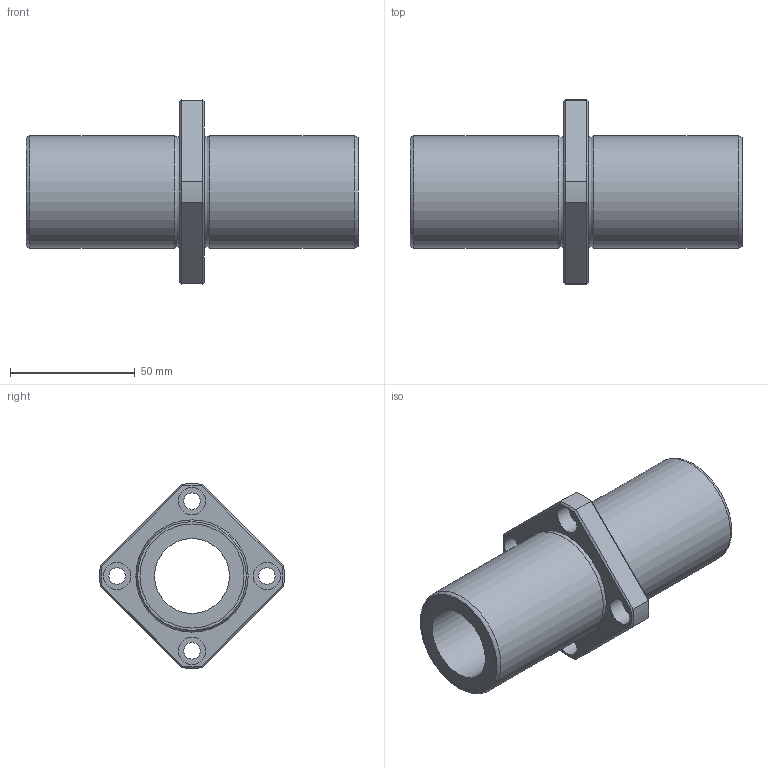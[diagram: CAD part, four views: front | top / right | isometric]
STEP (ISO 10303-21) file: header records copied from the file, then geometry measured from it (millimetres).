
FILE_DESCRIPTION((''),'2;1');
FILE_NAME('D:\製品 (図面)\カタログ用3D\メンテナンスフリー関連\STEP形式\LFDKC-MF\LFDKC30MF.stp','2010-06-01T15:43:03',('Tsuchiya'),(''),'Autodesk Inventor 10','Autodesk Inventor 10','');
FILE_SCHEMA(('AUTOMOTIVE_DESIGN { 1 0 10303 214 1 1 1 1 }'));
Length unit declared in the file: millimetre
Products named in the file (1): LFDKC30MF
Bounding box: 133 x 73.95 x 73.95 mm (x, y, z)
Volume: 131044.8 mm3; surface area: 37997.6 mm2
Topology: 1 solids, 1 shells, 51 faces, 103 edges, 62 vertices
Faces by surface type: plane 22, cylinder 17, cone 8, torus 2, bspline 2
Full cylindrical faces by diameter (mm): 6.6 x4, 11 x4, 30 x1, 41.7 x2, 45 x2
Entity records: 1413 total; most frequent: CARTESIAN_POINT 372, DIRECTION 216, ORIENTED_EDGE 172, AXIS2_PLACEMENT_3D 96, EDGE_CURVE 86, EDGE_LOOP 86, VERTEX_POINT 62, FACE_OUTER_BOUND 51
